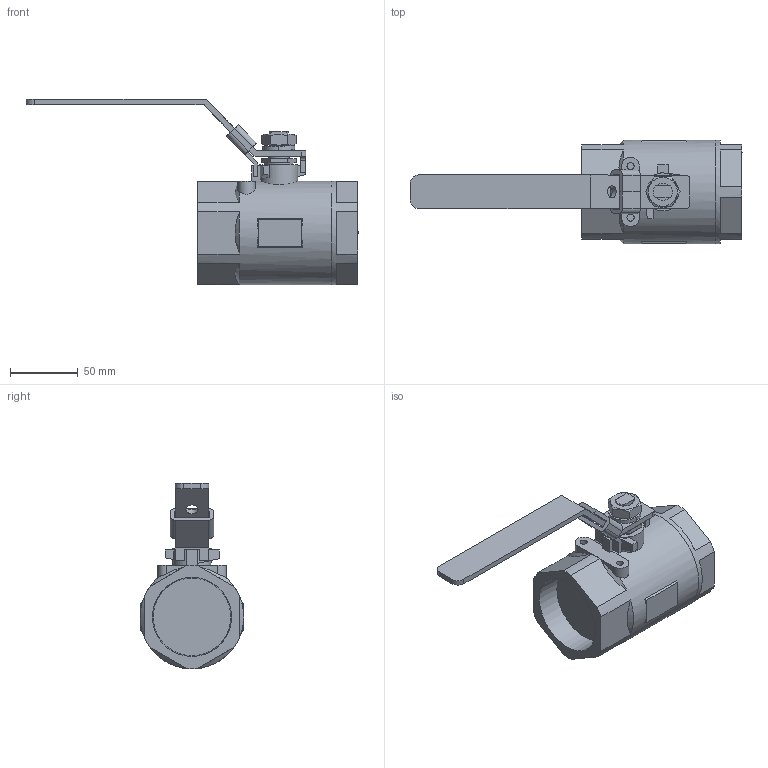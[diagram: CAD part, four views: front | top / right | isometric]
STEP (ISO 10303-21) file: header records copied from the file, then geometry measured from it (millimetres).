
FILE_DESCRIPTION((' '),'2;1');
FILE_NAME('N:\Technical Support\Private\Jomar Valve CAD\Ball Valves\CS and SS\2000N\2.0 T-CS[SS]-2000N (100-958 [100-938])FusionCopy.stp.step','2017-03-16T13:36:50',(' '),(' '),' ','ACIS',' ');
FILE_SCHEMA(('CONFIG_CONTROL_DESIGN'));
Length unit declared in the file: inch
Products named in the file (9): N:\Technical Support\Private\Jomar Valve CAD\Ball Valves\CS and SS\2000N\2.0 T-CS[SS]-2000N (100-958 [100-938])FusionCopy.stp.step; Body1; Body2; Body3; Body4; Body5; Body6; Body7; Body8
Assembly tree (8 placements, depth 2):
  N:\Technical Support\Private\Jomar Valve CAD\Ball Valves\CS and SS\2000N\2.0 T-CS[SS]-2000N (100-958 [100-938])FusionCopy.stp.step
    Body1
    Body2
    Body3
    Body4
    Body5
    Body6
    Body7
    Body8
Bounding box: 244.72 x 76.45 x 136.79 mm (x, y, z)
Volume: 477768.5 mm3; surface area: 77541.3 mm2
Topology: 8 solids, 8 shells, 179 faces, 457 edges, 300 vertices
Faces by surface type: plane 110, cylinder 31, bspline 21, cone 17
Full cylindrical faces by diameter (mm): 5.207 x2, 8.966 x1, 12.344 x1, 14.986 x1, 15.367 x1, 20.701 x1, 28.042 x1, 76.454 x2
Entity records: 6614 total; most frequent: CARTESIAN_POINT 1129, ORIENTED_EDGE 870, DIRECTION 869, EDGE_CURVE 435, VECTOR 295, LINE 295, VERTEX_POINT 293, AXIS2_PLACEMENT_3D 287
